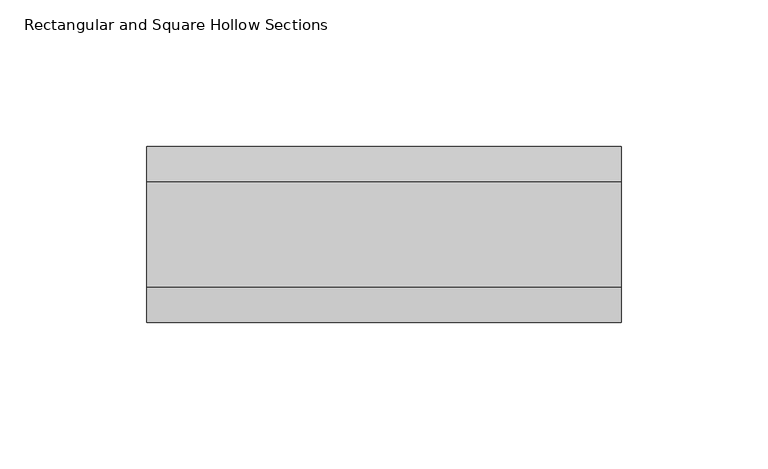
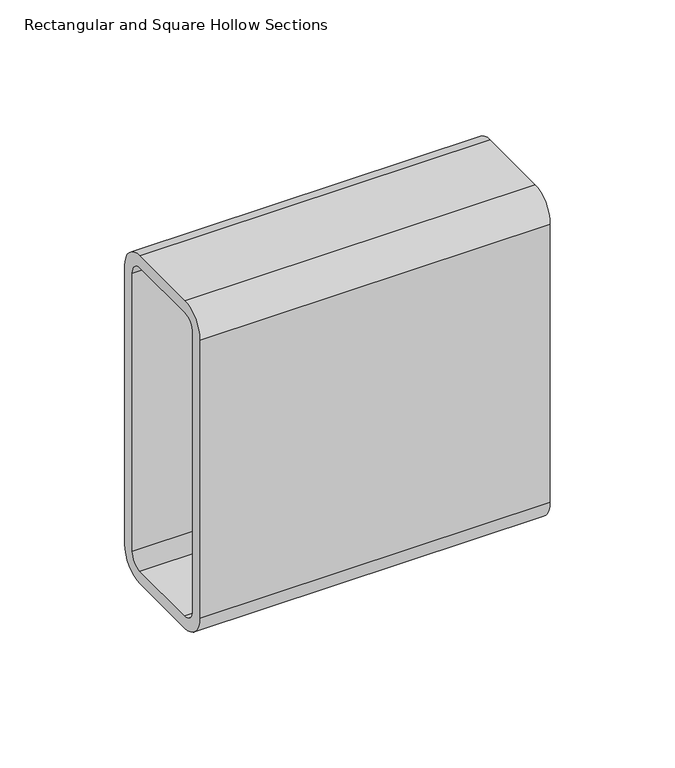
"""IFC4 building model written with IfcOpenShell, lengths in millimetres: beam geometry, Rectangular and Square Hollow Sections : TREC160x60x6."""

import ifcopenshell
import ifcopenshell.guid

model = None  # the IFC model being written
_history = None  # IfcOwnerHistory: only IFC2X3 demands one
_inside = {}  # id of a spatial element -> (the spatial element, [elements in it])
_under = {}  # id of a project, library or spatial element -> (it, [spatial elements below it])
_declared = {}  # id of a project -> (the project, [libraries it declares])
_typed = {}  # id of a type object -> (the type object, [elements of that type])
_made_of = {}  # id of a material, layer set ... -> (it, [elements and type objects made of it])


def new_model(schema):
    """Start an empty IFC model of exactly this schema.

    Asked for "IFC4X3", IfcOpenShell would pick the latest addendum, in which some entities
    have other attributes; the version numbers below select the first issue.
    IFC2X3 requires an IfcOwnerHistory on every rooted entity: one is made here for all.
    """
    global model, _history
    if schema == "IFC4X3":
        model = ifcopenshell.file(schema_version=(4, 3, 0, 0))
    else:
        model = ifcopenshell.file(schema=schema)
    _inside.clear()
    _under.clear()
    _declared.clear()
    _typed.clear()
    _made_of.clear()
    _history = None
    if model.schema == "IFC2X3":
        org = make("IfcOrganization", Name="unknown")
        user = make(
            "IfcPersonAndOrganization",
            ThePerson=make("IfcPerson", FamilyName="unknown"),
            TheOrganization=org,
        )
        app = make(
            "IfcApplication",
            ApplicationDeveloper=org,
            Version="unknown",
            ApplicationFullName="unknown",
            ApplicationIdentifier="unknown",
        )
        _history = make(
            "IfcOwnerHistory",
            OwningUser=user,
            OwningApplication=app,
            ChangeAction="ADDED",
            CreationDate=0,
        )
    return model


def make(cls, **values):
    """One entity of the class cls with the attributes given. An attribute that is None is left unset."""
    return model.create_entity(
        cls, **{name: value for name, value in values.items() if value is not None}
    )


def rooted(cls, **values):
    """An entity with a GlobalId (a new one), such as an element, a storey or a relation."""
    return make(cls, GlobalId=ifcopenshell.guid.new(), OwnerHistory=_history, **values)


def si_unit(unit_type, name, prefix=None):
    """IfcSIUnit, for example si_unit("LENGTHUNIT", "METRE", prefix="MILLI")."""
    return make("IfcSIUnit", UnitType=unit_type, Prefix=prefix, Name=name)


def assignment(units):
    """IfcUnitAssignment: the units of a project."""
    return None if units is None else make("IfcUnitAssignment", Units=units)


def point(xyz):
    """IfcCartesianPoint."""
    return None if xyz is None else make("IfcCartesianPoint", Coordinates=xyz)


def direction(xyz):
    """IfcDirection."""
    return None if xyz is None else make("IfcDirection", DirectionRatios=xyz)


def frame(location, z_axis=None, x_axis=None):
    """IfcAxis2Placement3D, a coordinate frame: its origin and axes. An axis left out is left unset."""
    return make(
        "IfcAxis2Placement3D",
        Location=point(location),
        Axis=direction(z_axis),
        RefDirection=direction(x_axis),
    )


def frame_2d(location, x_axis=None):
    """IfcAxis2Placement2D, a coordinate frame in the plane: its origin and x axis."""
    return make(
        "IfcAxis2Placement2D", Location=point(location), RefDirection=direction(x_axis)
    )


def origin():
    """The frame at (0, 0, 0) with its axes left unset."""
    return frame((0.0, 0.0, 0.0))


def place(relative_to, where):
    """IfcLocalPlacement: puts the frame where relative to a parent placement (None: the world)."""
    return make(
        "IfcLocalPlacement", PlacementRelTo=relative_to, RelativePlacement=where
    )


def context(
    kind, dimensions, precision=None, world=None, true_north=None, identifier=None
):
    """IfcGeometricRepresentationContext, for example the 3D "Model" context."""
    return make(
        "IfcGeometricRepresentationContext",
        ContextIdentifier=identifier,
        ContextType=kind,
        CoordinateSpaceDimension=dimensions,
        Precision=precision,
        WorldCoordinateSystem=world,
        TrueNorth=true_north,
    )


def project(units=None, contexts=None):
    """IfcProject with its units and contexts."""
    return rooted(
        "IfcProject",
        Name="project",
        RepresentationContexts=contexts,
        UnitsInContext=assignment(units),
    )


def spatial(cls, under=None, at=None, **own):
    """A site, building, storey or space (cls), placed at a placement, below another one or the project."""
    s = rooted(cls, ObjectPlacement=at, **own)
    if under is not None:
        _under.setdefault(under.id(), (under, []))[1].append(s)
    return s


def polyline(points):
    """IfcPolyline through the points."""
    return make("IfcPolyline", Points=[point(p) for p in points])


def circle_curve(where, radius):
    """IfcCircle in the frame where."""
    return make("IfcCircle", Position=where, Radius=radius)


def trimmed(basis, trim1, trim2, sense, master):
    """IfcTrimmedCurve: the piece of a basis curve between two trims."""
    return make(
        "IfcTrimmedCurve",
        BasisCurve=basis,
        Trim1=trim1,
        Trim2=trim2,
        SenseAgreement=sense,
        MasterRepresentation=master,
    )


def segment(curve, same_sense, transition):
    """IfcCompositeCurveSegment."""
    return make(
        "IfcCompositeCurveSegment",
        Transition=transition,
        SameSense=same_sense,
        ParentCurve=curve,
    )


def composite_curve(segments, self_intersect=None):
    """IfcCompositeCurve: segments joined end to end."""
    return make("IfcCompositeCurve", Segments=segments, SelfIntersect=self_intersect)


def outline(outer, holes=None, kind="AREA"):
    """IfcArbitraryClosedProfileDef: a profile drawn as a closed curve; with holes, ...WithVoids."""
    if holes is None:
        return make("IfcArbitraryClosedProfileDef", ProfileType=kind, OuterCurve=outer)
    return make(
        "IfcArbitraryProfileDefWithVoids",
        ProfileType=kind,
        OuterCurve=outer,
        InnerCurves=holes,
    )


def extrude(swept, where, along, depth):
    """IfcExtrudedAreaSolid: the profile swept, set in the frame where, extruded along a direction by depth."""
    return make(
        "IfcExtrudedAreaSolid",
        SweptArea=swept,
        Position=where,
        ExtrudedDirection=direction(along),
        Depth=depth,
    )


def shape(context_of_items, identifier, shape_type, items):
    """IfcShapeRepresentation: the items that make up one representation, for example the "Body"."""
    return make(
        "IfcShapeRepresentation",
        ContextOfItems=context_of_items,
        RepresentationIdentifier=identifier,
        RepresentationType=shape_type,
        Items=items,
    )


def source(mapping_origin, context_of_items, identifier, shape_type, items):
    """IfcRepresentationMap: a shape defined once, which mapped items show again and again."""
    return make(
        "IfcRepresentationMap",
        MappingOrigin=mapping_origin,
        MappedRepresentation=shape(context_of_items, identifier, shape_type, items),
    )


def transform(
    local_origin,
    x_axis=None,
    y_axis=None,
    z_axis=None,
    scale=None,
    scale2=None,
    scale3=None,
    uniform=True,
):
    """IfcCartesianTransformationOperator3D, or its non-uniform kind. x_axis, y_axis, z_axis: its Axis1, 2, 3."""
    if uniform:
        return make(
            "IfcCartesianTransformationOperator3D",
            Axis1=direction(x_axis),
            Axis2=direction(y_axis),
            LocalOrigin=point(local_origin),
            Scale=scale,
            Axis3=direction(z_axis),
        )
    return make(
        "IfcCartesianTransformationOperator3DnonUniform",
        Axis1=direction(x_axis),
        Axis2=direction(y_axis),
        LocalOrigin=point(local_origin),
        Scale=scale,
        Axis3=direction(z_axis),
        Scale2=scale2,
        Scale3=scale3,
    )


def mapped(mapping_source, mapping_target):
    """IfcMappedItem: shows the shape of a source again, moved by a transform."""
    return make(
        "IfcMappedItem", MappingSource=mapping_source, MappingTarget=mapping_target
    )


def made_of(thing, what):
    """Note that an element or type object is made of a material, layer set ...; save() writes the relation."""
    if what is not None:
        _made_of.setdefault(what.id(), (what, []))[1].append(thing)
    return thing


def element(
    cls,
    number,
    at=None,
    inside=None,
    cuts=None,
    type_object=None,
    material=None,
    context=None,
    identifier="Body",
    shape_type=None,
    held_by="IfcProductDefinitionShape",
    body=None,
    shapes=None,
    **own,
):
    """One element of the class cls, such as IfcWall. Its Tag is "e" and its number.

    at: its placement. inside: the storey or other place that contains it. cuts: it is an
    opening in that element (IfcRelVoidsElement). A single representation is given by context,
    identifier, shape_type and body (its items); several are given by shapes. held_by: the class
    of the entity that holds the representations. save() writes the other relations.
    """
    e = rooted(cls, Tag="e%d" % number, ObjectPlacement=at, **own)
    if body is not None:
        shapes = [shape(context, identifier, shape_type, body)]
    if shapes is not None:
        e.Representation = make(held_by, Representations=shapes)
    if inside is not None:
        _inside.setdefault(inside.id(), (inside, []))[1].append(e)
    if cuts is not None:
        rooted(
            "IfcRelVoidsElement", RelatingBuildingElement=cuts, RelatedOpeningElement=e
        )
    if type_object is not None:
        _typed.setdefault(type_object.id(), (type_object, []))[1].append(e)
    return made_of(e, material)


def aggregate(whole, parts):
    """IfcRelAggregates: a whole, such as a stair, and the parts it consists of."""
    return rooted("IfcRelAggregates", RelatingObject=whole, RelatedObjects=parts)


def save(model, path):
    """Write the relations noted so far, then the file.

    IfcRelAggregates (storeys below a building ...), IfcRelContainedInSpatialStructure (elements
    in a storey), IfcRelDefinesByType, IfcRelAssociatesMaterial and IfcRelDeclares: one each for
    every whole, place, type object, material and project.
    """
    for whole, parts in _under.values():
        aggregate(whole, parts)
    for where, things in _inside.values():
        rooted(
            "IfcRelContainedInSpatialStructure",
            RelatedElements=things,
            RelatingStructure=where,
        )
    for kind, things in _typed.values():
        rooted("IfcRelDefinesByType", RelatedObjects=things, RelatingType=kind)
    for what, things in _made_of.values():
        rooted("IfcRelAssociatesMaterial", RelatedObjects=things, RelatingMaterial=what)
    for by, libraries in _declared.values():
        rooted("IfcRelDeclares", RelatingContext=by, RelatedDefinitions=libraries)
    model.write(path)


def rectangular_and_square_hollow_sections_e31bbb35(model_context):
    return source(origin(), model_context, "Body", "SweptSolid", [
        extrude(outline(composite_curve([segment(polyline([(30.0, 68.0), (30.0, -68.0)]), True, "CONTINUOUS"), segment(trimmed(circle_curve(frame_2d((18.0, -68.0)), 12.0), [point((30.0, -68.0))], [point((18.0, -80.0))], False, "CARTESIAN"), True, "CONTINUOUS"), segment(polyline([(18.0, -80.0), (-18.0, -80.0)]), True, "CONTINUOUS"), segment(trimmed(circle_curve(frame_2d((-18.0, -68.0)), 12.0), [point((-18.0, -80.0))], [point((-30.0, -68.0))], False, "CARTESIAN"), True, "CONTINUOUS"), segment(polyline([(-30.0, -68.0), (-30.0, 68.0)]), True, "CONTINUOUS"), segment(trimmed(circle_curve(frame_2d((-18.0, 68.0)), 12.0), [point((-30.0, 68.0))], [point((-18.0, 80.0))], False, "CARTESIAN"), True, "CONTINUOUS"), segment(polyline([(-18.0, 80.0), (18.0, 80.0)]), True, "CONTINUOUS"), segment(trimmed(circle_curve(frame_2d((18.0, 68.0)), 12.0), [point((18.0, 80.0))], [point((30.0, 68.0))], False, "CARTESIAN"), True, "CONTINUOUS")], self_intersect=False), holes=[composite_curve([segment(trimmed(circle_curve(frame_2d((-18.0, 68.0)), 6.0), [point((-18.0, 74.0))], [point((-24.0, 68.0))], True, "CARTESIAN"), True, "CONTINUOUS"), segment(polyline([(-24.0, 68.0), (-24.0, -68.0)]), True, "CONTINUOUS"), segment(trimmed(circle_curve(frame_2d((-18.0, -68.0)), 6.0), [point((-24.0, -68.0))], [point((-18.0, -74.0))], True, "CARTESIAN"), True, "CONTINUOUS"), segment(polyline([(-18.0, -74.0), (18.0, -74.0)]), True, "CONTINUOUS"), segment(trimmed(circle_curve(frame_2d((18.0, -68.0)), 6.0), [point((18.0, -74.0))], [point((24.0, -68.0))], True, "CARTESIAN"), True, "CONTINUOUS"), segment(polyline([(24.0, -68.0), (24.0, 68.0)]), True, "CONTINUOUS"), segment(trimmed(circle_curve(frame_2d((18.0, 68.0)), 6.0), [point((24.0, 68.0))], [point((18.0, 74.0))], True, "CARTESIAN"), True, "CONTINUOUS"), segment(polyline([(18.0, 74.0), (-18.0, 74.0)]), True, "CONTINUOUS")], self_intersect=False)]), frame((-74.5, 0.0, 0.0), z_axis=(1.0, 0.0, 0.0), x_axis=(0.0, 1.0, 0.0)), (0.0, 0.0, 1.0), 161.9451688),
    ])


if __name__ == "__main__":
    model = new_model("IFC4")
    model_context = context("Model", 3, world=origin())
    ifc_project = project(units=[si_unit("LENGTHUNIT", "METRE", prefix="MILLI")], contexts=[model_context])
    site = spatial("IfcSite", under=ifc_project)
    building = spatial("IfcBuilding", under=site)
    placement = place(None, origin())
    rectangular_and_square_hollow_sections_shape = rectangular_and_square_hollow_sections_e31bbb35(model_context)
    element("IfcBeam", 1, ObjectType="Rectangular and Square Hollow Sections : TREC160x60x6", at=placement, inside=building, context=model_context, shape_type="MappedRepresentation", body=[
        mapped(rectangular_and_square_hollow_sections_shape, transform((0.0, 0.0, 0.0), x_axis=(1.0, 0.0, 0.0), y_axis=(0.0, 1.0, 0.0), z_axis=(0.0, 0.0, 1.0))),
    ])
    save(model, "model.ifc")
